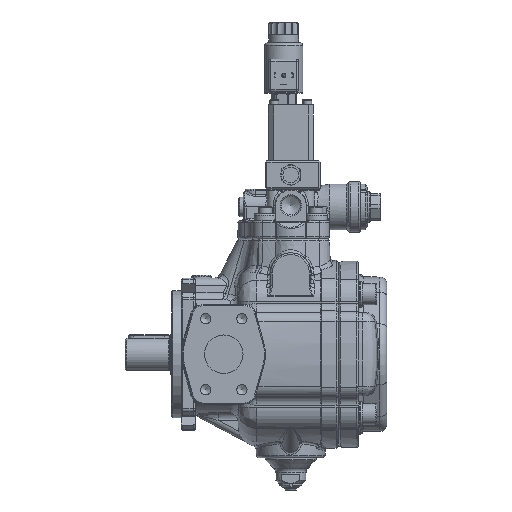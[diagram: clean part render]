
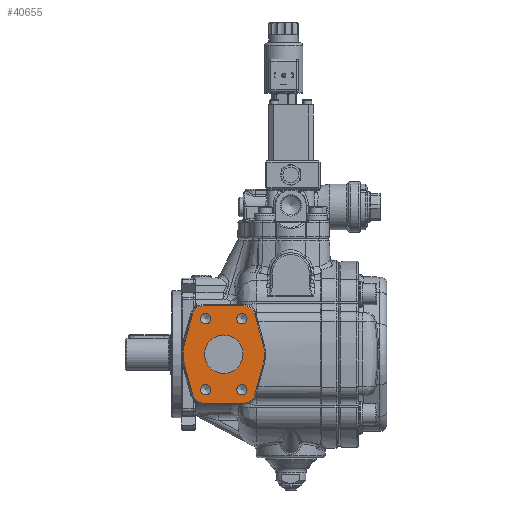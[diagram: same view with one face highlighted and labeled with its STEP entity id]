
A CAD part, left-side view. The second image highlights one B-rep face of the part: STEP entity #40655.
In plain terms, the highlighted planar face has unit normal (-1, 0, 0).
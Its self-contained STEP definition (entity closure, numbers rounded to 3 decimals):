
#2613=LINE('',#77732,#4994);
#2614=LINE('',#77736,#4995);
#2615=LINE('',#77740,#4996);
#2616=LINE('',#77744,#4997);
#2617=LINE('',#77748,#4998);
#2618=LINE('',#77752,#4999);
#4994=VECTOR('',#51800,10.);
#4995=VECTOR('',#51803,10.);
#4996=VECTOR('',#51806,10.);
#4997=VECTOR('',#51809,10.);
#4998=VECTOR('',#51812,10.);
#4999=VECTOR('',#51815,10.);
#6486=FACE_BOUND('',#11195,.T.);
#6487=FACE_BOUND('',#11196,.T.);
#6488=FACE_BOUND('',#11197,.T.);
#6489=FACE_BOUND('',#11198,.T.);
#6490=FACE_BOUND('',#11199,.T.);
#7075=PLANE('',#43902);
#8798=FACE_OUTER_BOUND('',#11194,.T.);
#11194=EDGE_LOOP('',(#31859,#31860,#31861,#31862,#31863,#31864,#31865,#31866,
#31867,#31868,#31869,#31870));
#11195=EDGE_LOOP('',(#31871));
#11196=EDGE_LOOP('',(#31872,#31873));
#11197=EDGE_LOOP('',(#31874,#31875));
#11198=EDGE_LOOP('',(#31876,#31877));
#11199=EDGE_LOOP('',(#31878,#31879));
#13600=CIRCLE('',#42592,19.);
#13783=CIRCLE('',#42889,5.053);
#13784=CIRCLE('',#42890,5.053);
#13787=CIRCLE('',#42895,5.053);
#13788=CIRCLE('',#42896,5.053);
#13791=CIRCLE('',#42901,5.053);
#13792=CIRCLE('',#42902,5.053);
#13795=CIRCLE('',#42907,5.053);
#13796=CIRCLE('',#42908,5.053);
#14379=CIRCLE('',#43903,11.);
#14380=CIRCLE('',#43904,40.);
#14381=CIRCLE('',#43905,11.);
#14382=CIRCLE('',#43906,11.);
#14383=CIRCLE('',#43907,40.);
#14384=CIRCLE('',#43908,11.);
#16385=VERTEX_POINT('',#61485);
#16593=VERTEX_POINT('',#63151);
#16594=VERTEX_POINT('',#63152);
#16598=VERTEX_POINT('',#63164);
#16599=VERTEX_POINT('',#63165);
#16603=VERTEX_POINT('',#63177);
#16604=VERTEX_POINT('',#63178);
#16608=VERTEX_POINT('',#63190);
#16609=VERTEX_POINT('',#63191);
#17595=VERTEX_POINT('',#77730);
#17596=VERTEX_POINT('',#77731);
#17597=VERTEX_POINT('',#77733);
#17598=VERTEX_POINT('',#77735);
#17599=VERTEX_POINT('',#77737);
#17600=VERTEX_POINT('',#77739);
#17601=VERTEX_POINT('',#77741);
#17602=VERTEX_POINT('',#77743);
#17603=VERTEX_POINT('',#77745);
#17604=VERTEX_POINT('',#77747);
#17605=VERTEX_POINT('',#77749);
#17606=VERTEX_POINT('',#77751);
#20605=EDGE_CURVE('',#16385,#16385,#13600,.T.);
#20935=EDGE_CURVE('',#16593,#16594,#13783,.T.);
#20936=EDGE_CURVE('',#16594,#16593,#13784,.T.);
#20941=EDGE_CURVE('',#16598,#16599,#13787,.T.);
#20942=EDGE_CURVE('',#16599,#16598,#13788,.T.);
#20947=EDGE_CURVE('',#16603,#16604,#13791,.T.);
#20948=EDGE_CURVE('',#16604,#16603,#13792,.T.);
#20953=EDGE_CURVE('',#16608,#16609,#13795,.T.);
#20954=EDGE_CURVE('',#16609,#16608,#13796,.T.);
#22619=EDGE_CURVE('',#17595,#17596,#2613,.T.);
#22620=EDGE_CURVE('',#17597,#17595,#14379,.T.);
#22621=EDGE_CURVE('',#17598,#17597,#2614,.T.);
#22622=EDGE_CURVE('',#17599,#17598,#14380,.T.);
#22623=EDGE_CURVE('',#17600,#17599,#2615,.T.);
#22624=EDGE_CURVE('',#17601,#17600,#14381,.T.);
#22625=EDGE_CURVE('',#17602,#17601,#2616,.T.);
#22626=EDGE_CURVE('',#17603,#17602,#14382,.T.);
#22627=EDGE_CURVE('',#17604,#17603,#2617,.T.);
#22628=EDGE_CURVE('',#17605,#17604,#14383,.T.);
#22629=EDGE_CURVE('',#17606,#17605,#2618,.T.);
#22630=EDGE_CURVE('',#17596,#17606,#14384,.T.);
#31859=ORIENTED_EDGE('',*,*,#22619,.F.);
#31860=ORIENTED_EDGE('',*,*,#22620,.F.);
#31861=ORIENTED_EDGE('',*,*,#22621,.F.);
#31862=ORIENTED_EDGE('',*,*,#22622,.F.);
#31863=ORIENTED_EDGE('',*,*,#22623,.F.);
#31864=ORIENTED_EDGE('',*,*,#22624,.F.);
#31865=ORIENTED_EDGE('',*,*,#22625,.F.);
#31866=ORIENTED_EDGE('',*,*,#22626,.F.);
#31867=ORIENTED_EDGE('',*,*,#22627,.F.);
#31868=ORIENTED_EDGE('',*,*,#22628,.F.);
#31869=ORIENTED_EDGE('',*,*,#22629,.F.);
#31870=ORIENTED_EDGE('',*,*,#22630,.F.);
#31871=ORIENTED_EDGE('',*,*,#20605,.T.);
#31872=ORIENTED_EDGE('',*,*,#20935,.T.);
#31873=ORIENTED_EDGE('',*,*,#20936,.T.);
#31874=ORIENTED_EDGE('',*,*,#20941,.T.);
#31875=ORIENTED_EDGE('',*,*,#20942,.T.);
#31876=ORIENTED_EDGE('',*,*,#20947,.T.);
#31877=ORIENTED_EDGE('',*,*,#20948,.T.);
#31878=ORIENTED_EDGE('',*,*,#20953,.T.);
#31879=ORIENTED_EDGE('',*,*,#20954,.T.);
#40655=ADVANCED_FACE('',(#8798,#6486,#6487,#6488,#6489,#6490),#7075,.F.);
#42592=AXIS2_PLACEMENT_3D('',#61486,#48577,#48578);
#42889=AXIS2_PLACEMENT_3D('',#63153,#49256,#49257);
#42890=AXIS2_PLACEMENT_3D('',#63154,#49258,#49259);
#42895=AXIS2_PLACEMENT_3D('',#63166,#49270,#49271);
#42896=AXIS2_PLACEMENT_3D('',#63167,#49272,#49273);
#42901=AXIS2_PLACEMENT_3D('',#63179,#49284,#49285);
#42902=AXIS2_PLACEMENT_3D('',#63180,#49286,#49287);
#42907=AXIS2_PLACEMENT_3D('',#63192,#49298,#49299);
#42908=AXIS2_PLACEMENT_3D('',#63193,#49300,#49301);
#43902=AXIS2_PLACEMENT_3D('',#77729,#51798,#51799);
#43903=AXIS2_PLACEMENT_3D('',#77734,#51801,#51802);
#43904=AXIS2_PLACEMENT_3D('',#77738,#51804,#51805);
#43905=AXIS2_PLACEMENT_3D('',#77742,#51807,#51808);
#43906=AXIS2_PLACEMENT_3D('',#77746,#51810,#51811);
#43907=AXIS2_PLACEMENT_3D('',#77750,#51813,#51814);
#43908=AXIS2_PLACEMENT_3D('',#77753,#51816,#51817);
#48577=DIRECTION('center_axis',(1.,0.,0.));
#48578=DIRECTION('ref_axis',(0.,-1.,0.));
#49256=DIRECTION('center_axis',(1.,0.,0.));
#49257=DIRECTION('ref_axis',(0.,0.,1.));
#49258=DIRECTION('center_axis',(1.,0.,0.));
#49259=DIRECTION('ref_axis',(0.,0.,1.));
#49270=DIRECTION('center_axis',(1.,0.,0.));
#49271=DIRECTION('ref_axis',(0.,0.,1.));
#49272=DIRECTION('center_axis',(1.,0.,0.));
#49273=DIRECTION('ref_axis',(0.,0.,1.));
#49284=DIRECTION('center_axis',(1.,0.,0.));
#49285=DIRECTION('ref_axis',(0.,0.,1.));
#49286=DIRECTION('center_axis',(1.,0.,0.));
#49287=DIRECTION('ref_axis',(0.,0.,1.));
#49298=DIRECTION('center_axis',(1.,0.,0.));
#49299=DIRECTION('ref_axis',(0.,0.,1.));
#49300=DIRECTION('center_axis',(1.,0.,0.));
#49301=DIRECTION('ref_axis',(0.,0.,1.));
#51798=DIRECTION('center_axis',(1.,0.,0.));
#51799=DIRECTION('ref_axis',(0.,0.,-1.));
#51800=DIRECTION('',(0.,1.,0.));
#51801=DIRECTION('center_axis',(1.,0.,0.));
#51802=DIRECTION('ref_axis',(0.,-0.964,-0.267));
#51803=DIRECTION('',(0.,0.267,-0.964));
#51804=DIRECTION('center_axis',(1.,0.,0.));
#51805=DIRECTION('ref_axis',(0.,-0.964,0.267));
#51806=DIRECTION('',(0.,-0.267,-0.964));
#51807=DIRECTION('center_axis',(1.,0.,0.));
#51808=DIRECTION('ref_axis',(0.,0.,1.));
#51809=DIRECTION('',(0.,-1.,0.));
#51810=DIRECTION('center_axis',(1.,0.,0.));
#51811=DIRECTION('ref_axis',(0.,0.964,0.267));
#51812=DIRECTION('',(0.,-0.267,0.964));
#51813=DIRECTION('center_axis',(1.,0.,0.));
#51814=DIRECTION('ref_axis',(0.,0.964,-0.267));
#51815=DIRECTION('',(0.,0.267,0.964));
#51816=DIRECTION('center_axis',(1.,0.,0.));
#51817=DIRECTION('ref_axis',(0.,0.,-1.));
#61485=CARTESIAN_POINT('',(-98.542,48.778,-9.476));
#61486=CARTESIAN_POINT('Origin',(-98.542,29.778,-9.476));
#63151=CARTESIAN_POINT('',(-98.542,47.628,-39.373));
#63152=CARTESIAN_POINT('',(-98.542,47.628,-49.479));
#63153=CARTESIAN_POINT('Origin',(-98.542,47.628,-44.426));
#63154=CARTESIAN_POINT('Origin',(-98.542,47.628,-44.426));
#63164=CARTESIAN_POINT('',(-98.542,11.928,30.527));
#63165=CARTESIAN_POINT('',(-98.542,11.928,20.421));
#63166=CARTESIAN_POINT('Origin',(-98.542,11.928,25.474));
#63167=CARTESIAN_POINT('Origin',(-98.542,11.928,25.474));
#63177=CARTESIAN_POINT('',(-98.542,47.628,30.527));
#63178=CARTESIAN_POINT('',(-98.542,47.628,20.421));
#63179=CARTESIAN_POINT('Origin',(-98.542,47.628,25.474));
#63180=CARTESIAN_POINT('Origin',(-98.542,47.628,25.474));
#63190=CARTESIAN_POINT('',(-98.542,11.928,-39.373));
#63191=CARTESIAN_POINT('',(-98.542,11.928,-49.479));
#63192=CARTESIAN_POINT('Origin',(-98.542,11.928,-44.426));
#63193=CARTESIAN_POINT('Origin',(-98.542,11.928,-44.426));
#77729=CARTESIAN_POINT('Origin',(-98.542,29.778,-9.476));
#77730=CARTESIAN_POINT('',(-98.542,9.928,-57.476));
#77731=CARTESIAN_POINT('',(-98.542,49.628,-57.476));
#77732=CARTESIAN_POINT('',(-98.542,19.853,-57.476));
#77733=CARTESIAN_POINT('',(-98.542,-0.673,-49.41));
#77734=CARTESIAN_POINT('Origin',(-98.542,9.928,-46.476));
#77735=CARTESIAN_POINT('',(-98.542,-8.772,-20.145));
#77736=CARTESIAN_POINT('',(-98.542,-8.772,-20.145));
#77737=CARTESIAN_POINT('',(-98.542,-8.772,1.194));
#77738=CARTESIAN_POINT('Origin',(-98.542,29.778,-9.476));
#77739=CARTESIAN_POINT('',(-98.542,-0.673,30.458));
#77740=CARTESIAN_POINT('',(-98.542,-4.723,15.826));
#77741=CARTESIAN_POINT('',(-98.542,9.928,38.524));
#77742=CARTESIAN_POINT('Origin',(-98.542,9.928,27.524));
#77743=CARTESIAN_POINT('',(-98.542,49.628,38.524));
#77744=CARTESIAN_POINT('',(-98.542,39.703,38.524));
#77745=CARTESIAN_POINT('',(-98.542,60.23,30.458));
#77746=CARTESIAN_POINT('Origin',(-98.542,49.628,27.524));
#77747=CARTESIAN_POINT('',(-98.542,68.329,1.194));
#77748=CARTESIAN_POINT('',(-98.542,68.329,1.194));
#77749=CARTESIAN_POINT('',(-98.542,68.329,-20.145));
#77750=CARTESIAN_POINT('Origin',(-98.542,29.778,-9.476));
#77751=CARTESIAN_POINT('',(-98.542,60.23,-49.41));
#77752=CARTESIAN_POINT('',(-98.542,64.279,-34.777));
#77753=CARTESIAN_POINT('Origin',(-98.542,49.628,-46.476));
